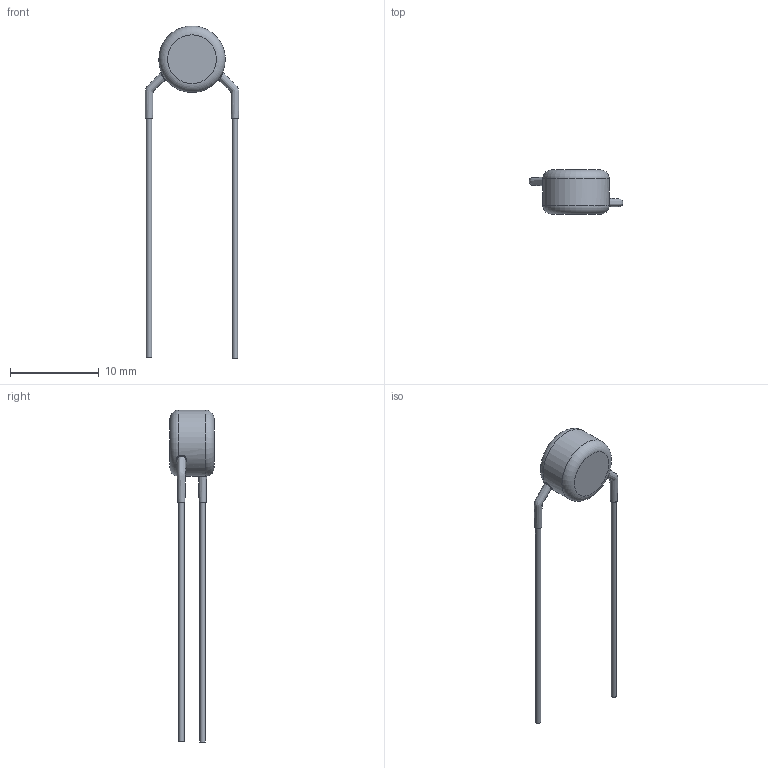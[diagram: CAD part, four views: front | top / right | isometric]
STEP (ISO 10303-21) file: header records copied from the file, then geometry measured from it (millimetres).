
FILE_DESCRIPTION(/* description */ (''),/* implementation_level */ '2;1');
FILE_NAME(/* name */ 'I:\Marketing\M6t1\3D-Models\Zchng-Werk-3\Upload for homepage\BCC neu\AY2 Straight\Step\AY2101K29Y5SS63L0.stp',/* time_stamp */ '2023-07-13T14:11:23+02:00',/* author */ ('truediger'),/* organization */ (''),/* preprocessor_version */ 'ST-DEVELOPER v18',/* originating_system */ 'Autodesk Inventor 2020',/* authorisation */ '');
FILE_SCHEMA (('AUTOMOTIVE_DESIGN { 1 0 10303 214 3 1 1 }'));
Length unit declared in the file: millimetre
Products named in the file (1): Bauteil2
Bounding box: 10.59 x 5 x 37.5 mm (x, y, z)
Volume: 233.7 mm3; surface area: 317.1 mm2
Topology: 1 solids, 1 shells, 19 faces, 43 edges, 28 vertices
Faces by surface type: bspline 8, plane 6, cylinder 3, torus 2
Full cylindrical faces by diameter (mm): 0.6 x2, 7.5 x1
Entity records: 1504 total; most frequent: CARTESIAN_POINT 1043, ORIENTED_EDGE 86, DIRECTION 75, EDGE_CURVE 43, AXIS2_PLACEMENT_3D 36, VERTEX_POINT 28, CIRCLE 24, EDGE_LOOP 21
